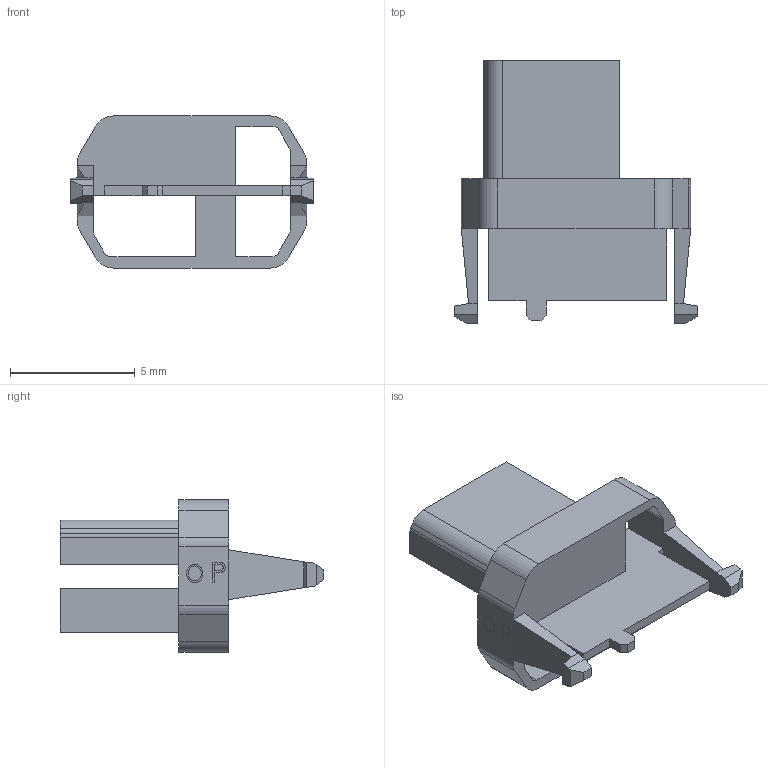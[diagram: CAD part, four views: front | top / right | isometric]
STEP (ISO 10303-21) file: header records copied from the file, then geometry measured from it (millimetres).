
FILE_DESCRIPTION (( 'STEP AP214' ), '1' );
FILE_NAME ('9111-D02009-FK3567.STEP', '2019-08-16T06:12:53', ( '' ), ( '' ), 'SwSTEP 2.0', 'SolidWorks 2011', '' );
FILE_SCHEMA (( 'AUTOMOTIVE_DESIGN' ));
Length unit declared in the file: millimetre
Products named in the file (1): 9111-D02009-FK3567
Bounding box: 9.75 x 10.55 x 6.1 mm (x, y, z)
Volume: 138.9 mm3; surface area: 354.4 mm2
Topology: 1 solids, 1 shells, 230 faces, 659 edges, 436 vertices
Faces by surface type: plane 200, cylinder 16, bspline 14
Entity records: 8409 total; most frequent: CARTESIAN_POINT 2412, ORIENTED_EDGE 1318, DIRECTION 1097, EDGE_CURVE 659, LINE 599, VECTOR 599, VERTEX_POINT 436, AXIS2_PLACEMENT_3D 249
